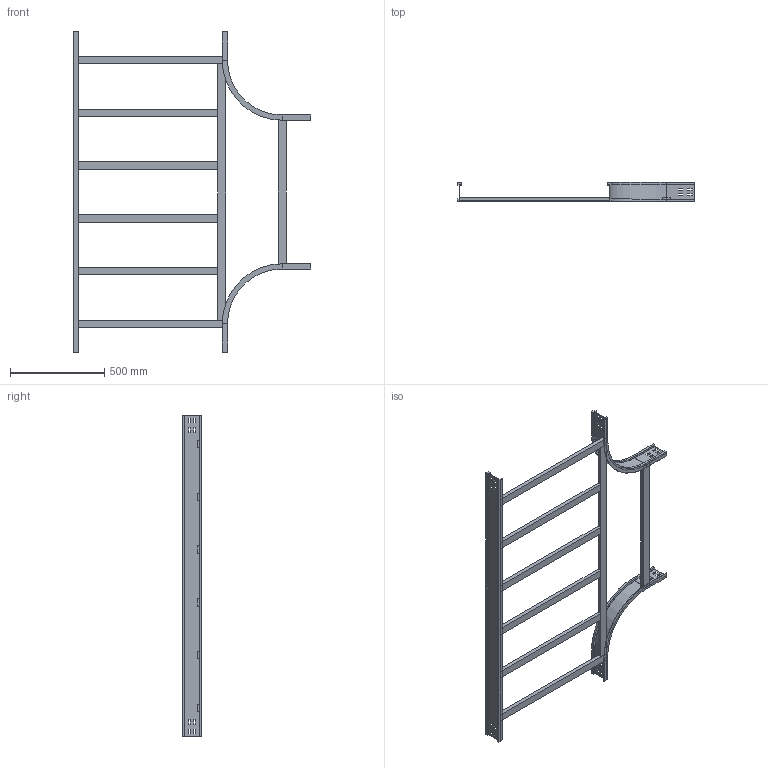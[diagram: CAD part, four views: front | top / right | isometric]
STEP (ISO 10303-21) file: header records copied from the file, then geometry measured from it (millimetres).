
FILE_DESCRIPTION (( 'STEP AP214' ), '1' );
FILE_NAME ('15S3D800.step', '2025-02-21T16:12:42', ( '' ), ( '' ), 'SwSTEP 2.0', 'SolidWorks 2023', '' );
FILE_SCHEMA (( 'AUTOMOTIVE_DESIGN' ));
Length unit declared in the file: millimetre
Products named in the file (6): LONGH.RETT_H100_R300+800; TRAVERSINO_INTERMEDIO_R300+800; LONGH.INTERNO 90°_H100_R300; TRAVERSINO_800; 15S3D800; TRAVERSINO_LONG._R300+800
Assembly tree (11 placements, depth 2):
  15S3D800
    LONGH.INTERNO 90°_H100_R300  x2
    LONGH.RETT_H100_R300+800
    TRAVERSINO_800  x3
    TRAVERSINO_LONG._R300+800
    TRAVERSINO_INTERMEDIO_R300+800  x4
Bounding box: 1259 x 100 x 1700 mm (x, y, z)
Volume: 7201477.1 mm3; surface area: 1792219.6 mm2
Topology: 11 solids, 11 shells, 234 faces, 588 edges, 376 vertices
Faces by surface type: plane 222, cylinder 12
Entity records: 4291 total; most frequent: CARTESIAN_POINT 720, ORIENTED_EDGE 696, DIRECTION 656, EDGE_CURVE 348, VECTOR 336, LINE 336, VERTEX_POINT 224, EDGE_LOOP 166
